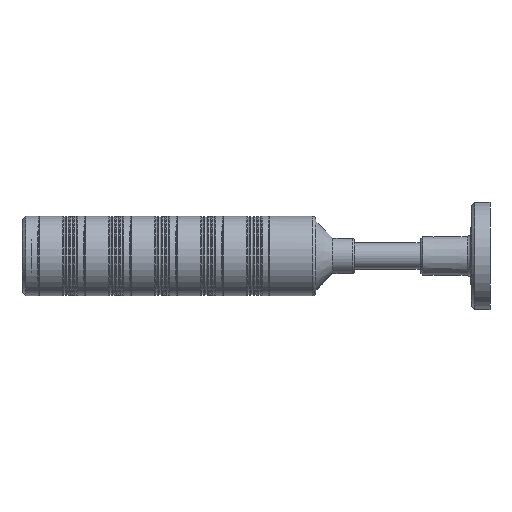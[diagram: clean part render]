
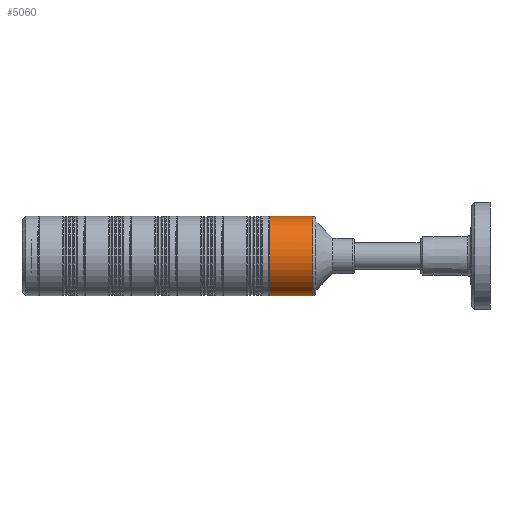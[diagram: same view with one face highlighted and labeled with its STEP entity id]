
A CAD part, front view. The second image highlights one B-rep face of the part: STEP entity #5060.
In plain terms, the highlighted cylindrical face has radius 26 mm (diameter 52 mm), a full revolution.
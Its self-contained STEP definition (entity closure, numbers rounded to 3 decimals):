
#409 = DIRECTION ( 'NONE',  ( 0., 0., -1. ) ) ;
#870 = CYLINDRICAL_SURFACE ( 'NONE', #1029, 26. ) ;
#1029 = AXIS2_PLACEMENT_3D ( 'NONE', #26552, #1310, #15148 ) ;
#1310 = DIRECTION ( 'NONE',  ( -1., 0., 0. ) ) ;
#1548 = DIRECTION ( 'NONE',  ( -1., 0., 0. ) ) ;
#1918 = CARTESIAN_POINT ( 'NONE',  ( -44.268, -190.153, 220.799 ) ) ;
#2708 = FACE_OUTER_BOUND ( 'NONE', #10886, .T. ) ;
#3288 = B_SPLINE_CURVE_WITH_KNOTS ( 'NONE', 3,
 ( #8421, #6305, #15555, #8112, #24820, #17209 ),
 .UNSPECIFIED., .F., .F.,
 ( 4, 1, 1, 4 ),
 ( 0., 0.333, 0.666, 1. ),
 .UNSPECIFIED. ) ;
#3532 = DIRECTION ( 'NONE',  ( 0., 0., 1. ) ) ;
#4998 = CARTESIAN_POINT ( 'NONE',  ( -44.268, -189.943, 194.8 ) ) ;
#5060 = ADVANCED_FACE ( 'NONE', ( #11667, #2708 ), #870, .T. ) ;
#5367 = CIRCLE ( 'NONE', #14059, 26. ) ;
#5815 = CARTESIAN_POINT ( 'NONE',  ( -44.268, -189.943, 194.8 ) ) ;
#6011 = CARTESIAN_POINT ( 'NONE',  ( -44.268, -190.179, 220.799 ) ) ;
#6305 = CARTESIAN_POINT ( 'NONE',  ( -44.268, -189.75, 168.801 ) ) ;
#6815 = DIRECTION ( 'NONE',  ( -1., 0., 0. ) ) ;
#6938 = DIRECTION ( 'NONE',  ( 1., 0., 0. ) ) ;
#7074 = VERTEX_POINT ( 'NONE', #18414 ) ;
#7477 = EDGE_CURVE ( 'NONE', #27937, #7074, #20703, .T. ) ;
#8112 = CARTESIAN_POINT ( 'NONE',  ( -44.268, -189.87, 168.8 ) ) ;
#8164 = CIRCLE ( 'NONE', #28563, 26. ) ;
#8421 = CARTESIAN_POINT ( 'NONE',  ( -44.268, -189.726, 168.801 ) ) ;
#8541 = ORIENTED_EDGE ( 'NONE', *, *, #24410, .T. ) ;
#9635 = ORIENTED_EDGE ( 'NONE', *, *, #7477, .T. ) ;
#10886 = EDGE_LOOP ( 'NONE', ( #8541, #26775, #9635, #18065 ) ) ;
#11168 = CARTESIAN_POINT ( 'NONE',  ( -44.268, -190.1, 220.8 ) ) ;
#11667 = FACE_OUTER_BOUND ( 'NONE', #15591, .T. ) ;
#12248 = VERTEX_POINT ( 'NONE', #22442 ) ;
#13111 = CARTESIAN_POINT ( 'NONE',  ( -72.268, -189.943, 220.8 ) ) ;
#13607 = CARTESIAN_POINT ( 'NONE',  ( -44.268, -190.179, 220.799 ) ) ;
#14059 = AXIS2_PLACEMENT_3D ( 'NONE', #5815, #1548, #3532 ) ;
#15101 = VERTEX_POINT ( 'NONE', #13111 ) ;
#15148 = DIRECTION ( 'NONE',  ( 0., 0., -1. ) ) ;
#15555 = CARTESIAN_POINT ( 'NONE',  ( -44.268, -189.798, 168.801 ) ) ;
#15591 = EDGE_LOOP ( 'NONE', ( #28268 ) ) ;
#15870 = CARTESIAN_POINT ( 'NONE',  ( -44.268, -189.969, 220.8 ) ) ;
#17209 = CARTESIAN_POINT ( 'NONE',  ( -44.268, -189.943, 168.8 ) ) ;
#18065 = ORIENTED_EDGE ( 'NONE', *, *, #24837, .T. ) ;
#18414 = CARTESIAN_POINT ( 'NONE',  ( -44.268, -189.943, 220.8 ) ) ;
#19018 = AXIS2_PLACEMENT_3D ( 'NONE', #25002, #6938, #20858 ) ;
#20703 = B_SPLINE_CURVE_WITH_KNOTS ( 'NONE', 3,
 ( #13607, #1918, #11168, #27433, #15870, #28190 ),
 .UNSPECIFIED., .F., .F.,
 ( 4, 1, 1, 4 ),
 ( 0., 0.333, 0.666, 1. ),
 .UNSPECIFIED. ) ;
#20858 = DIRECTION ( 'NONE',  ( 0., 0., 1. ) ) ;
#21103 = EDGE_CURVE ( 'NONE', #27844, #27937, #8164, .T. ) ;
#21759 = CARTESIAN_POINT ( 'NONE',  ( -44.268, -189.943, 168.8 ) ) ;
#22442 = CARTESIAN_POINT ( 'NONE',  ( -44.268, -189.726, 168.801 ) ) ;
#24104 = EDGE_CURVE ( 'NONE', #15101, #15101, #27305, .T. ) ;
#24410 = EDGE_CURVE ( 'NONE', #12248, #27844, #3288, .T. ) ;
#24820 = CARTESIAN_POINT ( 'NONE',  ( -44.268, -189.919, 168.8 ) ) ;
#24837 = EDGE_CURVE ( 'NONE', #7074, #12248, #5367, .T. ) ;
#25002 = CARTESIAN_POINT ( 'NONE',  ( -72.268, -189.943, 194.8 ) ) ;
#26552 = CARTESIAN_POINT ( 'NONE',  ( -41.068, -189.943, 194.8 ) ) ;
#26775 = ORIENTED_EDGE ( 'NONE', *, *, #21103, .T. ) ;
#27305 = CIRCLE ( 'NONE', #19018, 26. ) ;
#27433 = CARTESIAN_POINT ( 'NONE',  ( -44.268, -190.022, 220.8 ) ) ;
#27844 = VERTEX_POINT ( 'NONE', #21759 ) ;
#27937 = VERTEX_POINT ( 'NONE', #6011 ) ;
#28190 = CARTESIAN_POINT ( 'NONE',  ( -44.268, -189.943, 220.8 ) ) ;
#28268 = ORIENTED_EDGE ( 'NONE', *, *, #24104, .T. ) ;
#28563 = AXIS2_PLACEMENT_3D ( 'NONE', #4998, #6815, #409 ) ;
